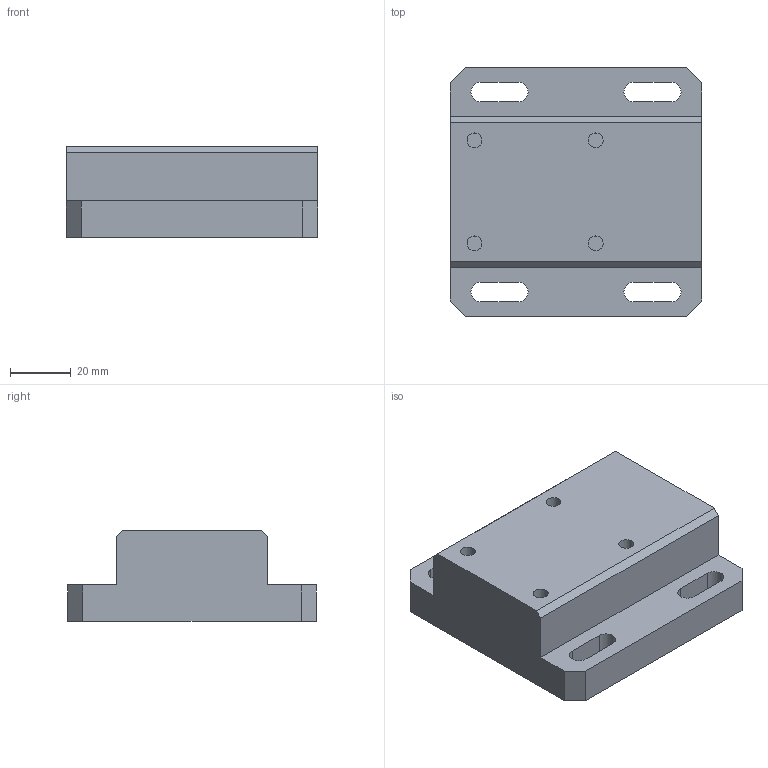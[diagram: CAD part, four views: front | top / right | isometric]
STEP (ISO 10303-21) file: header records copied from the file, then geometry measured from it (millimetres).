
FILE_DESCRIPTION(('CATIA V5 STEP Exchange'),'2;1');
FILE_NAME('D:\姚明阳\1、工装图纸\AGZ131\AGZ131.06_V2.stp','2025-06-28T07:48:40+00:00',('none'),('none'),'CATIA Version 5 Release 21 GA (IN-10)','CATIA V5 STEP AP214','none');
FILE_SCHEMA(('AUTOMOTIVE_DESIGN { 1 0 10303 214 1 1 1 1 }'));
Length unit declared in the file: millimetre
Products named in the file (1): AGZ131.06_V2
Bounding box: 83 x 82 x 29.9 mm (x, y, z)
Volume: 148425.6 mm3; surface area: 24146.7 mm2
Topology: 1 solids, 1 shells, 44 faces, 114 edges, 76 vertices
Faces by surface type: plane 28, cylinder 16
Entity records: 1304 total; most frequent: ORIENTED_EDGE 228, CARTESIAN_POINT 227, DIRECTION 180, EDGE_CURVE 114, VECTOR 80, LINE 80, VERTEX_POINT 76, AXIS2_PLACEMENT_3D 67
